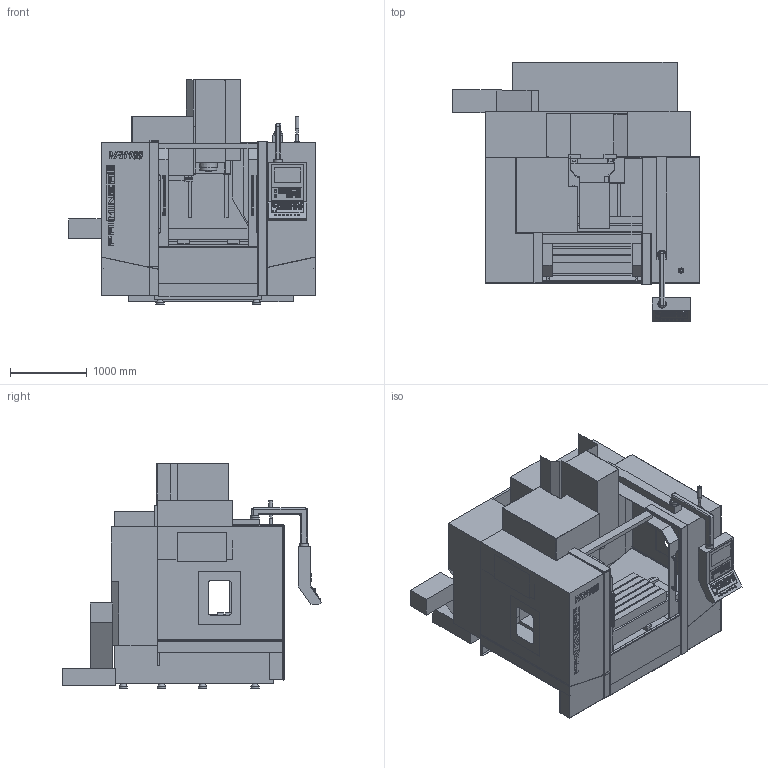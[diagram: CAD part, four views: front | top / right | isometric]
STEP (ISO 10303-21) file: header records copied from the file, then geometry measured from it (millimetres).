
FILE_DESCRIPTION(/* description */ (''),/* implementation_level */ '2;1');
FILE_NAME(/* name */ 'VF1100-3X应用简化.stp',/* time_stamp */ '2022-12-12T19:01:50+08:00',/* author */ (''),/* organization */ (''),/* preprocessor_version */ 'ST-DEVELOPER v18.102',/* originating_system */ 'SIEMENS PLM Software NX2206.5001',/* authorisation */ '');
FILE_SCHEMA (('AP203_CONFIGURATION_CONTROLLED_3D_DESIGN_OF_MECHANICAL_PARTS_AND_ASSEMBLIES_MIM_LF { 1 0 10303 403 2 1 2}'));
Products named in the file (1): VF1100-3X应用简化_objects
Bounding box: 3226.58 x 3390.35 x 2935.8 mm (x, y, z)
Volume: 4963581195.7 mm3; surface area: 99664264.3 mm2
Topology: 44 solids, 145 shells, 4300 faces, 11215 edges, 7404 vertices
Faces by surface type: plane 3266, cylinder 780, cone 112, bspline 109, torus 23, sphere 6, extrusion 2, revolution 2
Full cylindrical faces by diameter (mm): 1.5 x8, 2 x2, 4.134 x4, 5.5 x4, 6.3 x2, 6.647 x4, 8.5 x4, 16 x1, 22 x7, 23.8 x2, 24.304 x1, 28.2 x2, 30 x1, 35 x10, 45.2 x1, 50 x1, 70 x1, 100 x1, 110 x9, 120 x1, 160 x1, 220 x1, 221.341 x1
Entity records: 178543 total; most frequent: CARTESIAN_POINT 44035, ORIENTED_EDGE 22052, DIRECTION 20907, EDGE_CURVE 11026, VECTOR 8831, LINE 8829, VERTEX_POINT 7358, AXIS2_PLACEMENT_3D 6037
